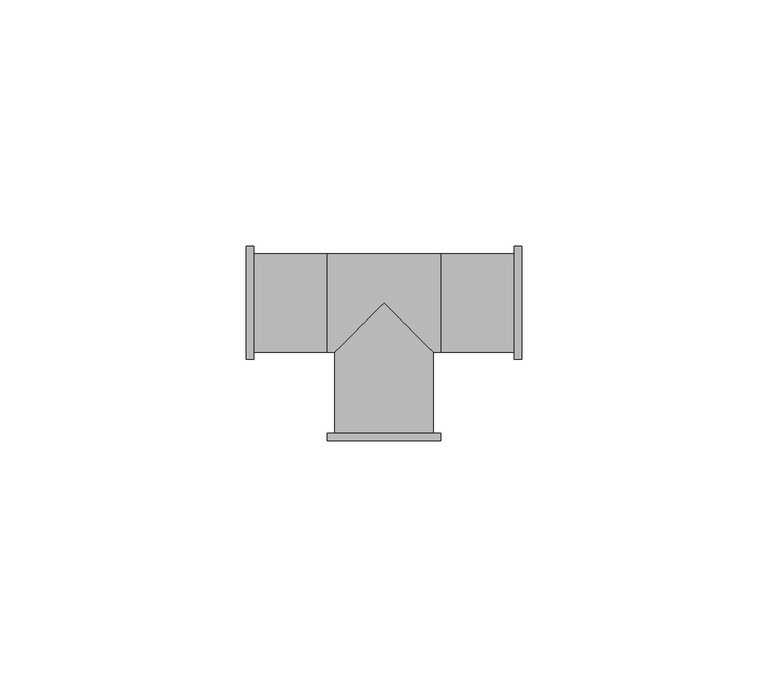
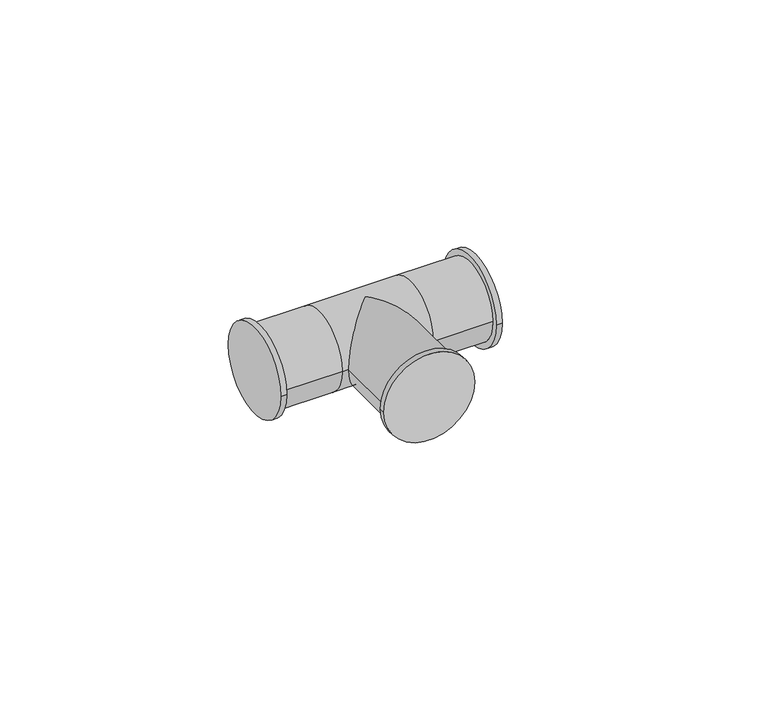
"""IFC4 building model written with IfcOpenShell, lengths in millimetres: pipe fitting geometry, ADSK_ЧугунРезьба_Тройник_ГОСТ8948-9-75 : Неоцинкованные."""

from ifc_helpers import new_model, si_unit, point, frame, origin, origin_2d, place, context, project, spatial, circle_curve, ellipse_curve, trimmed, segment, composite_curve, outline, extrude, source, transform, mapped, element, save
from ifc_brep_helpers import plane_surface, cylinder_surface, advanced_brep


def pipe_fitting_9beef1e2(model_context):
    return source(origin(), model_context, "Body", "SolidModel", [
        extrude(outline(composite_curve([segment(trimmed(circle_curve(origin_2d(), 11.5), [point((0.0, -11.5))], [point((0.0, 11.5))], False, "CARTESIAN"), True, "CONTINUOUS"), segment(trimmed(circle_curve(origin_2d(), 11.5), [point((0.0, 11.5))], [point((0.0, -11.5))], False, "CARTESIAN"), True, "CONTINUOUS")], self_intersect=False)), frame((0.0, -28.0, 0.0), z_axis=(0.0, 1.0, 0.0), x_axis=(0.0, 0.0, 1.0)), (0.0, 0.0, 1.0), 1.5),
        advanced_brep(
        [(11.5, 10.0, 0.0), (-11.5, 10.0, 0.0), (-11.5, -10.0, 0.0), (-10.0, -10.0, 0.0), (0.0, 0.0, 10.0), (10.0, -10.0, 0.0), (11.5, -10.0, 0.0), (0.0, 0.0, -10.0), (-26.5, 10.0, 0.0), (-26.5, -10.0, 0.0), (26.5, 10.0, 0.0), (26.5, -10.0, 0.0), (-28.0, -11.5, 0.0), (-28.0, 11.5, 0.0), (-26.5, -11.5, 0.0), (-26.5, 11.5, 0.0), (26.5, -11.5, 0.0), (26.5, 11.5, 0.0), (28.0, -11.5, 0.0), (28.0, 11.5, 0.0), (-10.0, -26.5, 0.0), (10.0, -26.5, 0.0)],
        [
            (0, 1),
            (1, 2, circle_curve(frame((-11.5, 0.0, 0.0), z_axis=(1.0, 0.0, 0.0), x_axis=(0.0, 1.0, 0.0)), 10.0)),
            (2, 3),
            (3, 4, ellipse_curve(frame((0.0, 0.0, 0.0), z_axis=(-0.707106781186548, 0.7071067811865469, 0.0), x_axis=(-0.7071067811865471, -0.7071067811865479, 0.0)), 14.1421356, 10.0)),
            (4, 5, ellipse_curve(frame((0.0, 0.0, 0.0), z_axis=(0.7071067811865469, 0.707106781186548, 0.0), x_axis=(-0.7071067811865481, 0.7071067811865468, 0.0)), 14.1421356, 10.0)),
            (5, 6),
            (6, 0, circle_curve(frame((11.5, 0.0, 0.0), z_axis=(-1.0, 0.0, 0.0), x_axis=(0.0, 1.0, 0.0)), 10.0)),
            (0, 6, circle_curve(frame((11.5, 0.0, 0.0), z_axis=(-1.0, 0.0, 0.0), x_axis=(0.0, 1.0, 0.0)), 10.0)),
            (5, 7, ellipse_curve(frame((0.0, 0.0, 0.0), z_axis=(0.7071067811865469, 0.707106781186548, 0.0), x_axis=(-0.7071067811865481, 0.7071067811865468, 0.0)), 14.1421356, 10.0)),
            (7, 3, ellipse_curve(frame((0.0, 0.0, 0.0), z_axis=(-0.707106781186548, 0.7071067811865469, 0.0), x_axis=(-0.7071067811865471, -0.7071067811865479, 0.0)), 14.1421356, 10.0)),
            (2, 1, circle_curve(frame((-11.5, 0.0, 0.0), z_axis=(1.0, 0.0, 0.0), x_axis=(0.0, 1.0, 0.0)), 10.0)),
            (8, 1),
            (2, 9),
            (9, 8, circle_curve(frame((-26.5, 0.0, 0.0), z_axis=(1.0, 0.0, 0.0), x_axis=(0.0, 1.0, 0.0)), 10.0)),
            (8, 9, circle_curve(frame((-26.5, 0.0, 0.0), z_axis=(1.0, 0.0, 0.0), x_axis=(0.0, 1.0, 0.0)), 10.0)),
            (0, 10),
            (10, 11, circle_curve(frame((26.5, 0.0, 0.0), z_axis=(-1.0, 0.0, 0.0), x_axis=(0.0, 1.0, 0.0)), 10.0)),
            (11, 6),
            (11, 10, circle_curve(frame((26.5, 0.0, 0.0), z_axis=(-1.0, 0.0, 0.0), x_axis=(0.0, 1.0, 0.0)), 10.0)),
            (12, 13, circle_curve(frame((-28.0, 0.0, 0.0), z_axis=(-1.0, 0.0, 0.0), x_axis=(0.0, 1.0, 0.0)), 11.5)),
            (13, 12, circle_curve(frame((-28.0, 0.0, 0.0), z_axis=(-1.0, 0.0, 0.0), x_axis=(0.0, 1.0, 0.0)), 11.5)),
            (14, 15, circle_curve(frame((-26.5, 0.0, 0.0), z_axis=(1.0, 0.0, 0.0), x_axis=(0.0, 1.0, 0.0)), 11.5)),
            (15, 14, circle_curve(frame((-26.5, 0.0, 0.0), z_axis=(1.0, 0.0, 0.0), x_axis=(0.0, 1.0, 0.0)), 11.5)),
            (12, 14),
            (15, 13),
            (16, 17, circle_curve(frame((26.5, 0.0, 0.0), z_axis=(-1.0, 0.0, 0.0), x_axis=(0.0, 1.0, 0.0)), 11.5)),
            (17, 16, circle_curve(frame((26.5, 0.0, 0.0), z_axis=(-1.0, 0.0, 0.0), x_axis=(0.0, 1.0, 0.0)), 11.5)),
            (18, 19, circle_curve(frame((28.0, 0.0, 0.0), z_axis=(1.0, 0.0, 0.0), x_axis=(0.0, 1.0, 0.0)), 11.5)),
            (19, 18, circle_curve(frame((28.0, 0.0, 0.0), z_axis=(1.0, 0.0, 0.0), x_axis=(0.0, 1.0, 0.0)), 11.5)),
            (16, 18),
            (19, 17),
            (20, 21, circle_curve(frame((0.0, -26.5, 0.0), z_axis=(0.0, -1.0, 0.0), x_axis=(1.0, 0.0, 0.0)), 10.0)),
            (21, 20, circle_curve(frame((0.0, -26.5, 0.0), z_axis=(0.0, -1.0, 0.0), x_axis=(1.0, 0.0, 0.0)), 10.0)),
            (21, 5),
            (3, 20),
        ],
        [
            cylinder_surface(frame((-11.5, 0.0, 0.0), z_axis=(-1.0, 0.0, 0.0), x_axis=(0.0, 1.0, 0.0)), 10.0),
            cylinder_surface(frame((1524.0, 0.0, 0.0), z_axis=(-1.0, 0.0, 0.0), x_axis=(0.0, 1.0, 0.0)), 10.0),
            plane_surface(frame((-28.0, 0.0, 0.0), z_axis=(-1.0, 0.0, 0.0), x_axis=(0.0, 0.0, 1.0))),
            plane_surface(frame((-26.5, 0.0, 0.0), z_axis=(1.0, 0.0, 0.0), x_axis=(0.0, 0.0, 1.0))),
            cylinder_surface(frame((-28.0, 0.0, 0.0), z_axis=(-1.0, 0.0, 0.0), x_axis=(0.0, 1.0, 0.0)), 11.5),
            plane_surface(frame((26.5, 0.0, 0.0), z_axis=(-1.0, 0.0, 0.0), x_axis=(0.0, 0.0, 1.0))),
            plane_surface(frame((28.0, 0.0, 0.0), z_axis=(1.0, 0.0, 0.0), x_axis=(0.0, 0.0, 1.0))),
            cylinder_surface(frame((26.5, 0.0, 0.0), z_axis=(-1.0, 0.0, 0.0), x_axis=(0.0, 1.0, 0.0)), 11.5),
            plane_surface(frame((0.0, -26.5, 0.0), z_axis=(0.0, -1.0, 0.0), x_axis=(0.0, 0.0, 1.0))),
            cylinder_surface(frame((0.0, 0.0, 0.0), z_axis=(0.0, 1.0, 0.0), x_axis=(1.0, 0.0, 0.0)), 10.0),
        ],
        [
            (0, [[1, 2, 3, 4, 5, 6, 7]]),
            (0, [[-1, 8, -6, 9, 10, -3, 11]]),
            (1, [[12, -11, 13, 14]]),
            (1, [[-12, 15, -13, -2]]),
            (1, [[16, 17, 18, -8]]),
            (1, [[-16, -7, -18, 19]]),
            (2, [[20, 21]]),
            (3, [[22, 23], [-14, -15]]),
            (4, [[-20, 24, -23, 25]]),
            (4, [[-21, -25, -22, -24]]),
            (5, [[26, 27], [-17, -19]]),
            (6, [[28, 29]]),
            (7, [[-26, 30, -29, 31]]),
            (7, [[-27, -31, -28, -30]]),
            (8, [[32, 33]]),
            (9, [[-33, 34, -5, -4, 35]]),
            (9, [[-32, -35, -10, -9, -34]]),
        ],
    ),
    ])


if __name__ == "__main__":
    model = new_model("IFC4")
    model_context = context("Model", 3, world=origin())
    ifc_project = project(units=[si_unit("LENGTHUNIT", "METRE", prefix="MILLI")], contexts=[model_context])
    site = spatial("IfcSite", under=ifc_project)
    building = spatial("IfcBuilding", under=site)
    placement = place(None, origin())
    pipe_fitting_shape = pipe_fitting_9beef1e2(model_context)
    element("IfcPipeFitting", 1, ObjectType="ADSK_ЧугунРезьба_Тройник_ГОСТ8948-9-75 : Неоцинкованные", at=placement, inside=building, context=model_context, shape_type="MappedRepresentation", body=[
        mapped(pipe_fitting_shape, transform((0.0, 0.0, 0.0), x_axis=(1.0, 0.0, 0.0), y_axis=(0.0, 1.0, 0.0), z_axis=(0.0, 0.0, 1.0))),
    ])
    save(model, "model.ifc")
